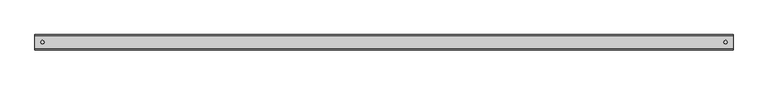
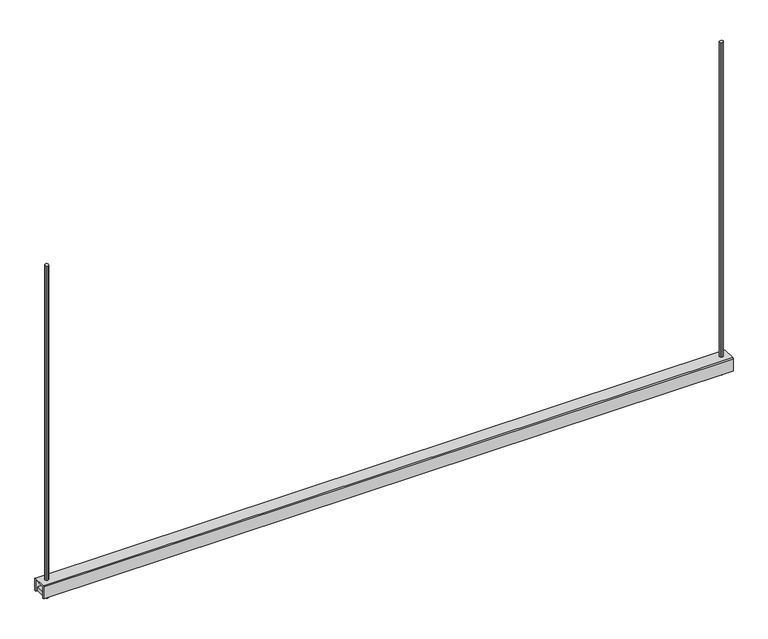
"""IFC4 building model written with IfcOpenShell, lengths in millimetres: proxy geometry, Beared-Hanger : BearedHanger."""

import ifcopenshell
import ifcopenshell.guid

model = None  # the IFC model being written
_history = None  # IfcOwnerHistory: only IFC2X3 demands one
_inside = {}  # id of a spatial element -> (the spatial element, [elements in it])
_under = {}  # id of a project, library or spatial element -> (it, [spatial elements below it])
_declared = {}  # id of a project -> (the project, [libraries it declares])
_typed = {}  # id of a type object -> (the type object, [elements of that type])
_made_of = {}  # id of a material, layer set ... -> (it, [elements and type objects made of it])


def new_model(schema):
    """Start an empty IFC model of exactly this schema.

    Asked for "IFC4X3", IfcOpenShell would pick the latest addendum, in which some entities
    have other attributes; the version numbers below select the first issue.
    IFC2X3 requires an IfcOwnerHistory on every rooted entity: one is made here for all.
    """
    global model, _history
    if schema == "IFC4X3":
        model = ifcopenshell.file(schema_version=(4, 3, 0, 0))
    else:
        model = ifcopenshell.file(schema=schema)
    _inside.clear()
    _under.clear()
    _declared.clear()
    _typed.clear()
    _made_of.clear()
    _history = None
    if model.schema == "IFC2X3":
        org = make("IfcOrganization", Name="unknown")
        user = make(
            "IfcPersonAndOrganization",
            ThePerson=make("IfcPerson", FamilyName="unknown"),
            TheOrganization=org,
        )
        app = make(
            "IfcApplication",
            ApplicationDeveloper=org,
            Version="unknown",
            ApplicationFullName="unknown",
            ApplicationIdentifier="unknown",
        )
        _history = make(
            "IfcOwnerHistory",
            OwningUser=user,
            OwningApplication=app,
            ChangeAction="ADDED",
            CreationDate=0,
        )
    return model


def make(cls, **values):
    """One entity of the class cls with the attributes given. An attribute that is None is left unset."""
    return model.create_entity(
        cls, **{name: value for name, value in values.items() if value is not None}
    )


def rooted(cls, **values):
    """An entity with a GlobalId (a new one), such as an element, a storey or a relation."""
    return make(cls, GlobalId=ifcopenshell.guid.new(), OwnerHistory=_history, **values)


def si_unit(unit_type, name, prefix=None):
    """IfcSIUnit, for example si_unit("LENGTHUNIT", "METRE", prefix="MILLI")."""
    return make("IfcSIUnit", UnitType=unit_type, Prefix=prefix, Name=name)


def assignment(units):
    """IfcUnitAssignment: the units of a project."""
    return None if units is None else make("IfcUnitAssignment", Units=units)


def point(xyz):
    """IfcCartesianPoint."""
    return None if xyz is None else make("IfcCartesianPoint", Coordinates=xyz)


def direction(xyz):
    """IfcDirection."""
    return None if xyz is None else make("IfcDirection", DirectionRatios=xyz)


def frame(location, z_axis=None, x_axis=None):
    """IfcAxis2Placement3D, a coordinate frame: its origin and axes. An axis left out is left unset."""
    return make(
        "IfcAxis2Placement3D",
        Location=point(location),
        Axis=direction(z_axis),
        RefDirection=direction(x_axis),
    )


def origin():
    """The frame at (0, 0, 0) with its axes left unset."""
    return frame((0.0, 0.0, 0.0))


def place(relative_to, where):
    """IfcLocalPlacement: puts the frame where relative to a parent placement (None: the world)."""
    return make(
        "IfcLocalPlacement", PlacementRelTo=relative_to, RelativePlacement=where
    )


def context(
    kind, dimensions, precision=None, world=None, true_north=None, identifier=None
):
    """IfcGeometricRepresentationContext, for example the 3D "Model" context."""
    return make(
        "IfcGeometricRepresentationContext",
        ContextIdentifier=identifier,
        ContextType=kind,
        CoordinateSpaceDimension=dimensions,
        Precision=precision,
        WorldCoordinateSystem=world,
        TrueNorth=true_north,
    )


def project(units=None, contexts=None):
    """IfcProject with its units and contexts."""
    return rooted(
        "IfcProject",
        Name="project",
        RepresentationContexts=contexts,
        UnitsInContext=assignment(units),
    )


def spatial(cls, under=None, at=None, **own):
    """A site, building, storey or space (cls), placed at a placement, below another one or the project."""
    s = rooted(cls, ObjectPlacement=at, **own)
    if under is not None:
        _under.setdefault(under.id(), (under, []))[1].append(s)
    return s


def polyline(points):
    """IfcPolyline through the points."""
    return make("IfcPolyline", Points=[point(p) for p in points])


def outline(outer, holes=None, kind="AREA"):
    """IfcArbitraryClosedProfileDef: a profile drawn as a closed curve; with holes, ...WithVoids."""
    if holes is None:
        return make("IfcArbitraryClosedProfileDef", ProfileType=kind, OuterCurve=outer)
    return make(
        "IfcArbitraryProfileDefWithVoids",
        ProfileType=kind,
        OuterCurve=outer,
        InnerCurves=holes,
    )


def extrude(swept, where, along, depth):
    """IfcExtrudedAreaSolid: the profile swept, set in the frame where, extruded along a direction by depth."""
    return make(
        "IfcExtrudedAreaSolid",
        SweptArea=swept,
        Position=where,
        ExtrudedDirection=direction(along),
        Depth=depth,
    )


def shape(context_of_items, identifier, shape_type, items):
    """IfcShapeRepresentation: the items that make up one representation, for example the "Body"."""
    return make(
        "IfcShapeRepresentation",
        ContextOfItems=context_of_items,
        RepresentationIdentifier=identifier,
        RepresentationType=shape_type,
        Items=items,
    )


def source(mapping_origin, context_of_items, identifier, shape_type, items):
    """IfcRepresentationMap: a shape defined once, which mapped items show again and again."""
    return make(
        "IfcRepresentationMap",
        MappingOrigin=mapping_origin,
        MappedRepresentation=shape(context_of_items, identifier, shape_type, items),
    )


def transform(
    local_origin,
    x_axis=None,
    y_axis=None,
    z_axis=None,
    scale=None,
    scale2=None,
    scale3=None,
    uniform=True,
):
    """IfcCartesianTransformationOperator3D, or its non-uniform kind. x_axis, y_axis, z_axis: its Axis1, 2, 3."""
    if uniform:
        return make(
            "IfcCartesianTransformationOperator3D",
            Axis1=direction(x_axis),
            Axis2=direction(y_axis),
            LocalOrigin=point(local_origin),
            Scale=scale,
            Axis3=direction(z_axis),
        )
    return make(
        "IfcCartesianTransformationOperator3DnonUniform",
        Axis1=direction(x_axis),
        Axis2=direction(y_axis),
        LocalOrigin=point(local_origin),
        Scale=scale,
        Axis3=direction(z_axis),
        Scale2=scale2,
        Scale3=scale3,
    )


def mapped(mapping_source, mapping_target):
    """IfcMappedItem: shows the shape of a source again, moved by a transform."""
    return make(
        "IfcMappedItem", MappingSource=mapping_source, MappingTarget=mapping_target
    )


def made_of(thing, what):
    """Note that an element or type object is made of a material, layer set ...; save() writes the relation."""
    if what is not None:
        _made_of.setdefault(what.id(), (what, []))[1].append(thing)
    return thing


def element(
    cls,
    number,
    at=None,
    inside=None,
    cuts=None,
    type_object=None,
    material=None,
    context=None,
    identifier="Body",
    shape_type=None,
    held_by="IfcProductDefinitionShape",
    body=None,
    shapes=None,
    **own,
):
    """One element of the class cls, such as IfcWall. Its Tag is "e" and its number.

    at: its placement. inside: the storey or other place that contains it. cuts: it is an
    opening in that element (IfcRelVoidsElement). A single representation is given by context,
    identifier, shape_type and body (its items); several are given by shapes. held_by: the class
    of the entity that holds the representations. save() writes the other relations.
    """
    e = rooted(cls, Tag="e%d" % number, ObjectPlacement=at, **own)
    if body is not None:
        shapes = [shape(context, identifier, shape_type, body)]
    if shapes is not None:
        e.Representation = make(held_by, Representations=shapes)
    if inside is not None:
        _inside.setdefault(inside.id(), (inside, []))[1].append(e)
    if cuts is not None:
        rooted(
            "IfcRelVoidsElement", RelatingBuildingElement=cuts, RelatedOpeningElement=e
        )
    if type_object is not None:
        _typed.setdefault(type_object.id(), (type_object, []))[1].append(e)
    return made_of(e, material)


def aggregate(whole, parts):
    """IfcRelAggregates: a whole, such as a stair, and the parts it consists of."""
    return rooted("IfcRelAggregates", RelatingObject=whole, RelatedObjects=parts)


def save(model, path):
    """Write the relations noted so far, then the file.

    IfcRelAggregates (storeys below a building ...), IfcRelContainedInSpatialStructure (elements
    in a storey), IfcRelDefinesByType, IfcRelAssociatesMaterial and IfcRelDeclares: one each for
    every whole, place, type object, material and project.
    """
    for whole, parts in _under.values():
        aggregate(whole, parts)
    for where, things in _inside.values():
        rooted(
            "IfcRelContainedInSpatialStructure",
            RelatedElements=things,
            RelatingStructure=where,
        )
    for kind, things in _typed.values():
        rooted("IfcRelDefinesByType", RelatedObjects=things, RelatingType=kind)
    for what, things in _made_of.values():
        rooted("IfcRelAssociatesMaterial", RelatedObjects=things, RelatingMaterial=what)
    for by, libraries in _declared.values():
        rooted("IfcRelDeclares", RelatingContext=by, RelatedDefinitions=libraries)
    model.write(path)


def mechanical_equipment_8b6c7145(model_context):
    return source(origin(), model_context, "Body", "SweptSolid", [
        extrude(outline(polyline([(884.3094896, -17.3962402), (884.3094896, 16.7883301), (914.1263841, 16.7883301), (914.1263841, -17.3962402), (884.3094896, -17.3962402)])), frame((0.0, 0.0, -923.4154053), z_axis=(0.0, 0.0, 1.0), x_axis=(1.0, 0.0, 0.0)), (0.0, 0.0, 1.0), 10.0),
        extrude(outline(polyline([(899.2179369, 5.0), (902.7530931, 3.5351562), (904.2185472, 0.0), (902.7530931, -3.5351563), (899.2179369, -5.0), (895.6827806, -3.5351563), (894.2179369, 0.0), (895.6827806, 3.5351562), (899.2179369, 5.0)])), frame((0.0, 0.0, -937.0), z_axis=(0.0, 0.0, 1.0), x_axis=(1.0, 0.0, 0.0)), (0.0, 0.0, 1.0), 937.0),
        extrude(outline(polyline([(-884.3094896, 16.7883301), (-884.3094896, -17.3962402), (-914.1263841, -17.3962402), (-914.1263841, 16.7883301), (-884.3094896, 16.7883301)])), frame((0.0, 0.0, -923.4154053), z_axis=(0.0, 0.0, 1.0), x_axis=(1.0, 0.0, 0.0)), (0.0, 0.0, 1.0), 10.0),
        extrude(outline(polyline([(-899.2179369, 5.0), (-895.6827806, 3.5351563), (-894.2179369, 0.0), (-895.6827806, -3.5351562), (-899.2179369, -5.0), (-902.7530931, -3.5351562), (-904.2185472, 0.0), (-902.7530931, 3.5351563), (-899.2179369, 5.0)])), frame((0.0, 0.0, -937.0), z_axis=(0.0, 0.0, 1.0), x_axis=(1.0, 0.0, 0.0)), (0.0, 0.0, 1.0), 937.0),
        extrude(outline(polyline([(-17.8259277, -887.0), (17.1740723, -887.0), (19.6740723, -889.4996948), (19.6740723, -923.4154053), (16.7883301, -923.4154053), (16.7883301, -889.9998779), (-17.3962402, -889.9998779), (-17.3962402, -923.4154053), (-20.3259277, -923.4154053), (-20.3259277, -889.4996948), (-17.8259277, -887.0)])), frame((-919.0589905, 0.0, 0.0), z_axis=(1.0, 0.0, 0.0), x_axis=(0.0, 1.0, 0.0)), (0.0, 0.0, 1.0), 1838.117981),
    ])


if __name__ == "__main__":
    model = new_model("IFC4")
    model_context = context("Model", 3, world=origin())
    ifc_project = project(units=[si_unit("LENGTHUNIT", "METRE", prefix="MILLI")], contexts=[model_context])
    site = spatial("IfcSite", under=ifc_project)
    building = spatial("IfcBuilding", under=site)
    placement = place(None, origin())
    mechanical_equipment_shape = mechanical_equipment_8b6c7145(model_context)
    element("IfcBuildingElementProxy", 1, Name="Beared-Hanger : BearedHanger", ObjectType="Beared-Hanger : BearedHanger", at=placement, inside=building, context=model_context, shape_type="MappedRepresentation", body=[
        mapped(mechanical_equipment_shape, transform((0.0, 0.0, 0.0), x_axis=(1.0, 0.0, 0.0), y_axis=(0.0, 1.0, 0.0), z_axis=(0.0, 0.0, 1.0))),
    ])
    save(model, "model.ifc")
